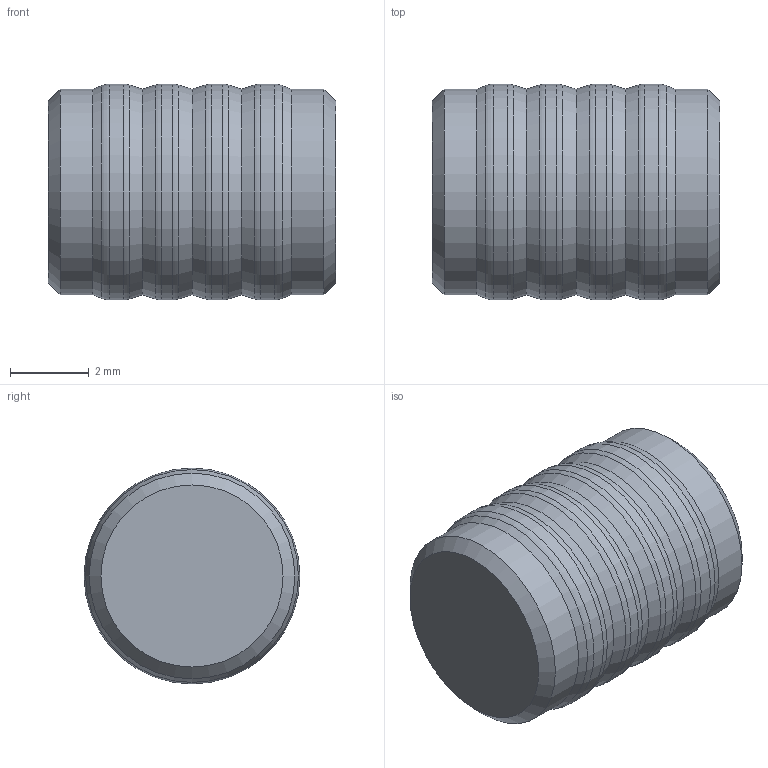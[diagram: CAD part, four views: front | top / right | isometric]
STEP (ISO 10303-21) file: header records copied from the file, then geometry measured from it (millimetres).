
FILE_DESCRIPTION(/* description */ ('LEE CHEK, 558 SERIES, PRESS-IN'),/* implementation_level */ '2;1');
FILE_NAME(/* name */ '\\ABSOLUTE\SmWork\Vernon\CCPI55XXXXXS.stp',/* time_stamp */ '2021-03-23T13:56:05-04:00',/* author */ ('VernonJ'),/* organization */ (''),/* preprocessor_version */ 'ST-DEVELOPER v18',/* originating_system */ 'Autodesk Inventor 2020',/* authorisation */ '');
FILE_SCHEMA (('AUTOMOTIVE_DESIGN { 1 0 10303 214 3 1 1 }'));
Length unit declared in the file: millimetre
Products named in the file (1): CCPI55XXXXXS
Bounding box: 7.31 x 5.49 x 5.49 mm (x, y, z)
Volume: 163.2 mm3; surface area: 162.5 mm2
Topology: 1 solids, 1 shells, 26 faces, 90 edges, 66 vertices
Faces by surface type: cone 10, torus 8, cylinder 6, plane 2
Full cylindrical faces by diameter (mm): 5.23 x2, 5.49 x4
Entity records: 1093 total; most frequent: DIRECTION 218, CARTESIAN_POINT 183, ORIENTED_EDGE 180, AXIS2_PLACEMENT_3D 101, EDGE_CURVE 90, CIRCLE 74, VERTEX_POINT 66, FACE_OUTER_BOUND 26
